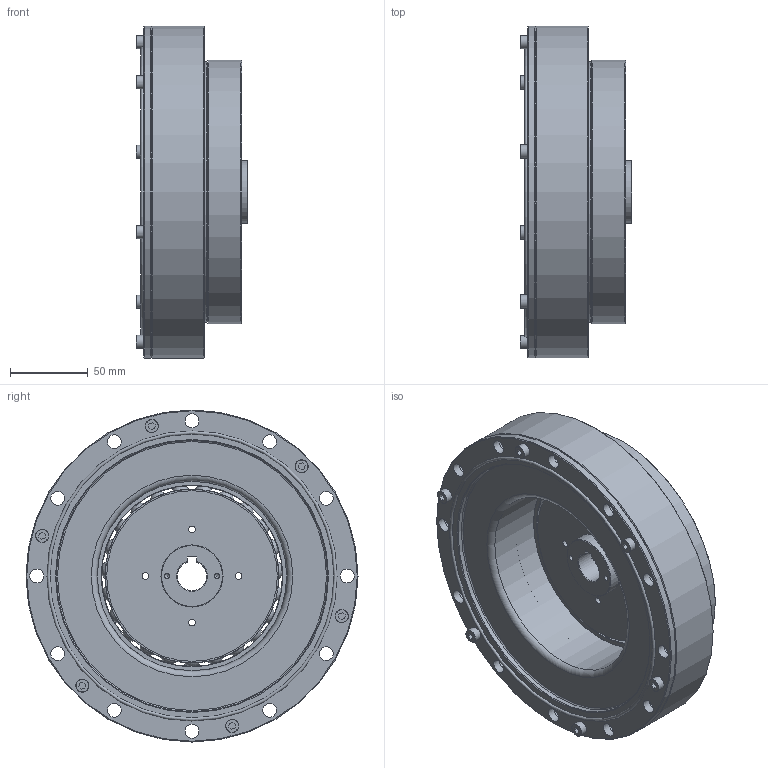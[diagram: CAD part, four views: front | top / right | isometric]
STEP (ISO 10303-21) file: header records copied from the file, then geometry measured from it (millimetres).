
FILE_DESCRIPTION (( 'STEP AP203' ), '1' );
FILE_NAME ('FHG-50-XXX-SJ.STEP', '2024-09-19T01:23:56', ( '微软用户' ), ( '微软中国' ), 'SwSTEP 2.0', 'SolidWorks 2016', '' );
FILE_SCHEMA (( 'CONFIG_CONTROL_DESIGN' ));
Length unit declared in the file: millimetre
Products named in the file (1): FHG-50-XXX-SJ
Bounding box: 72 x 214 x 214 mm (x, y, z)
Volume: 1122891.4 mm3; surface area: 420644.4 mm2
Topology: 50 solids, 50 shells, 602 faces, 1425 edges, 926 vertices
Faces by surface type: plane 236, cylinder 216, cone 80, torus 47, sphere 23
Full cylindrical faces by diameter (mm): 3.3 x2, 4.2 x18, 5 x14, 5.5 x14, 6.8 x16, 8.5 x14, 9 x40, 10 x8, 40 x2, 88.9 x2, 92.9 x1, 95.25 x2, 100 x1, 110 x1, 112 x1, 116.59 x2, 122.692 x1, 122.707 x1, 124.198 x1, 125.15 x1, 128.042 x1, 129 x1, 134.403 x1, 135 x3, 140.2 x2, 152.6 x1, 168 x4, 170 x1, 172 x3, 175 x1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
Entity records: 14859 total; most frequent: DIRECTION 2778, CARTESIAN_POINT 2367, ORIENTED_EDGE 1934, AXIS2_PLACEMENT_3D 1212, EDGE_LOOP 1056, EDGE_CURVE 967, FACE_OUTER_BOUND 787, VERTEX_POINT 785
